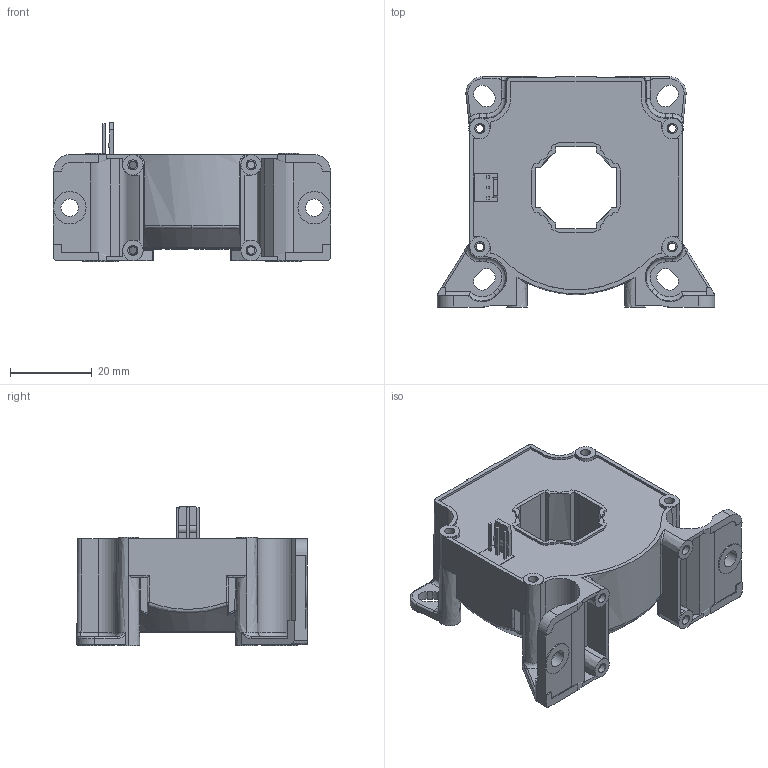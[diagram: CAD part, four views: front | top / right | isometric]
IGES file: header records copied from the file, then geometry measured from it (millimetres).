
Start section: Elysium IGES Interface
Global section: file name: U:\bruno\LF 305-S.igs; native system: SolidDesigner 16.00A  16-Aug-2008; preprocessor: CoCreate IGES_3D V2.2; author: Unknown; organization: Unknown; date: 20090818.104346; units: millimetre
Bounding box: 68 x 56.53 x 34.3 mm (x, y, z)
Volume: 15685.2 mm3; surface area: 24482.5 mm2
Topology: 1 solids, 2 shells, 1550 faces, 4268 edges, 2801 vertices
Faces by surface type: bspline 1550
